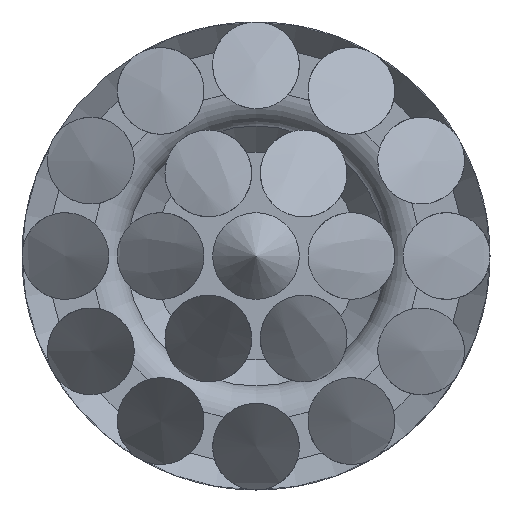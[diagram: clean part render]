
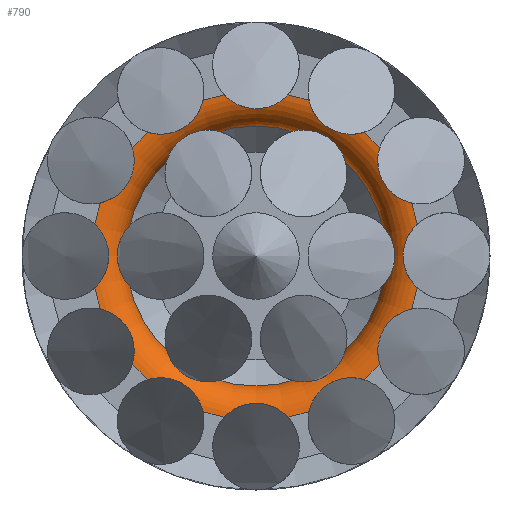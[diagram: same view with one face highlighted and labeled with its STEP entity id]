
A CAD part, front view. The second image highlights one B-rep face of the part: STEP entity #790.
In plain terms, the highlighted toroidal (fillet/blend) face has major radius 1.9 mm and minor radius 0.4 mm.
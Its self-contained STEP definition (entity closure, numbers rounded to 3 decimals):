
#17=TOROIDAL_SURFACE('',#910,1.9,0.4);
#170=CIRCLE('',#901,1.9);
#174=CIRCLE('',#908,1.5);
#175=CIRCLE('',#911,0.4);
#221=FACE_OUTER_BOUND('',#275,.T.);
#275=EDGE_LOOP('',(#720,#721,#722,#723));
#383=VERTEX_POINT('',#2062);
#387=VERTEX_POINT('',#2075);
#491=EDGE_CURVE('',#383,#383,#170,.T.);
#497=EDGE_CURVE('',#387,#387,#174,.T.);
#499=EDGE_CURVE('',#387,#383,#175,.T.);
#720=ORIENTED_EDGE('',*,*,#497,.T.);
#721=ORIENTED_EDGE('',*,*,#499,.T.);
#722=ORIENTED_EDGE('',*,*,#491,.T.);
#723=ORIENTED_EDGE('',*,*,#499,.F.);
#790=ADVANCED_FACE('',(#221),#17,.F.);
#901=AXIS2_PLACEMENT_3D('',#2063,#1109,#1110);
#908=AXIS2_PLACEMENT_3D('',#2076,#1125,#1126);
#910=AXIS2_PLACEMENT_3D('',#2079,#1130,#1131);
#911=AXIS2_PLACEMENT_3D('',#2080,#1132,#1133);
#1109=DIRECTION('center_axis',(0.,1.,0.));
#1110=DIRECTION('ref_axis',(0.,0.,1.));
#1125=DIRECTION('center_axis',(0.,-1.,0.));
#1126=DIRECTION('ref_axis',(0.,0.,1.));
#1130=DIRECTION('center_axis',(0.,-1.,0.));
#1131=DIRECTION('ref_axis',(0.,0.,-1.));
#1132=DIRECTION('center_axis',(-1.,0.,0.));
#1133=DIRECTION('ref_axis',(0.,0.,1.));
#2062=CARTESIAN_POINT('',(0.,-20.,1.9));
#2063=CARTESIAN_POINT('Origin',(0.,-20.,0.));
#2075=CARTESIAN_POINT('',(0.,-19.6,1.5));
#2076=CARTESIAN_POINT('Origin',(0.,-19.6,0.));
#2079=CARTESIAN_POINT('Origin',(0.,-19.6,0.));
#2080=CARTESIAN_POINT('Origin',(0.,-19.6,1.9));
